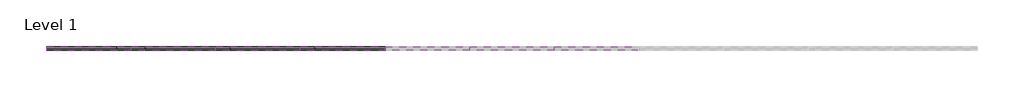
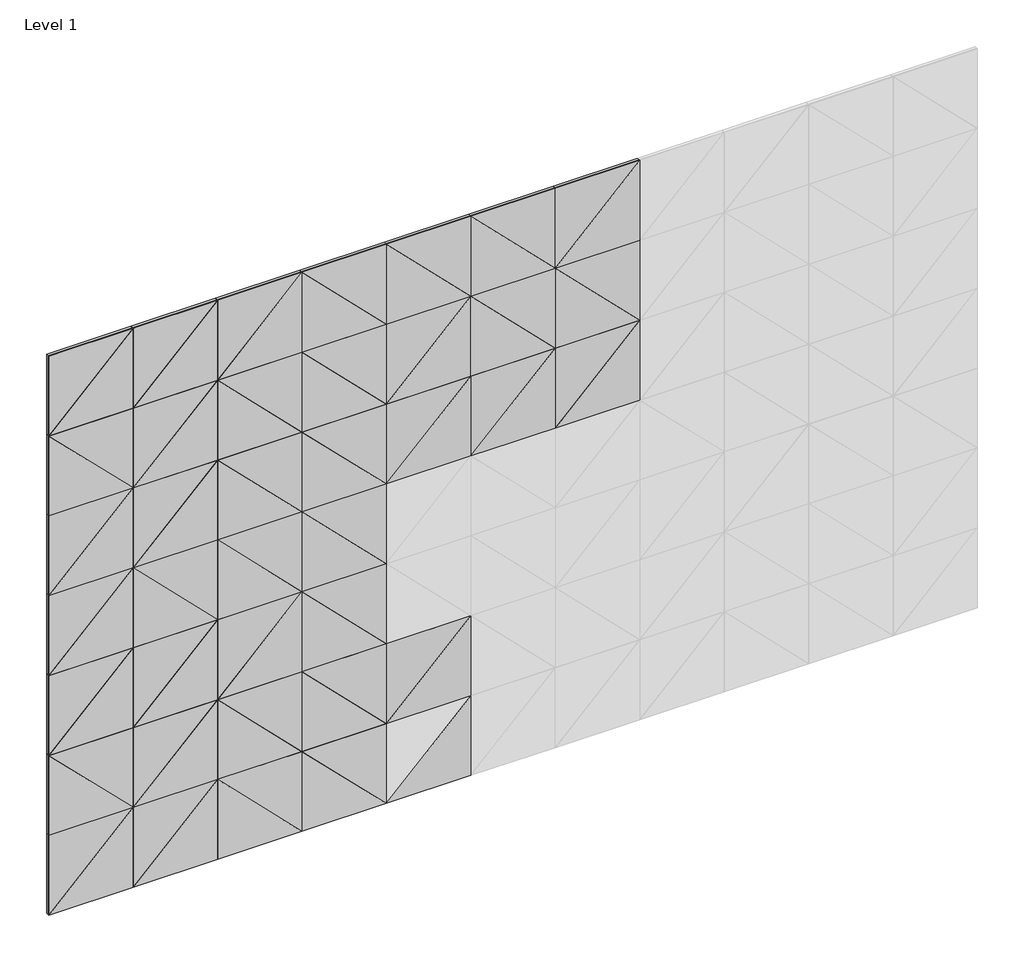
# One storey, part 1 of 2: 77 proxies.
"""IFC4 building model written with IfcOpenShell, lengths in millimetres."""

from ifc_helpers import new_model, si_unit, origin, place, context, project, spatial, transform, mapped, element, save
from components import triangle_90_block_a3482206

model = new_model("IFC4")

# Units and contexts
model_context = context("Model", 3, world=origin())
ifc_project = project(units=[si_unit("LENGTHUNIT", "METRE", prefix="MILLI")], contexts=[model_context])

# Site, building, storey
site = spatial("IfcSite", under=ifc_project)
building = spatial("IfcBuilding", under=site)
storey = spatial("IfcBuildingStorey", under=building, Name="Level 1", Elevation=0.0)

# Proxies
placement = place(None, origin())
triangle_90_block_shape = triangle_90_block_a3482206(model_context)
element("IfcBuildingElementProxy", 1, Name="FilzFelt_Triangle_90_Block : Triangle 90 Block", ObjectType="FilzFelt_Triangle_90_Block : Triangle 90 Block", at=placement, inside=storey, context=model_context, shape_type="MappedRepresentation", body=[
    mapped(triangle_90_block_shape, transform((38028.2097905, -10378.7647205, 1709.1), x_axis=(-1.0, 0.0, 0.0), y_axis=(0.0, 0.0, -1.0), z_axis=(0.0, -1.0, 0.0))),
])
element("IfcBuildingElementProxy", 2, Name="FilzFelt_Triangle_90_Block : Triangle 90 Block", ObjectType="FilzFelt_Triangle_90_Block : Triangle 90 Block", at=placement, inside=storey, context=model_context, shape_type="MappedRepresentation", body=[
    mapped(triangle_90_block_shape, transform((38638.2097905, -10378.7647205, 2014.1), x_axis=(0.0, 0.0, 1.0), y_axis=(-1.0, 0.0, 0.0), z_axis=(0.0, -1.0, 0.0))),
])
element("IfcBuildingElementProxy", 3, Name="FilzFelt_Triangle_90_Block : Triangle 90 Block", ObjectType="FilzFelt_Triangle_90_Block : Triangle 90 Block", at=placement, inside=storey, context=model_context, shape_type="MappedRepresentation", body=[
    mapped(triangle_90_block_shape, transform((38943.2097905, -10378.7647205, 2014.1), x_axis=(1.0, 0.0, 0.0), y_axis=(0.0, 0.0, 1.0), z_axis=(0.0, -1.0, 0.0))),
])
element("IfcBuildingElementProxy", 4, Name="FilzFelt_Triangle_90_Block : Triangle 90 Block", ObjectType="FilzFelt_Triangle_90_Block : Triangle 90 Block", at=placement, inside=storey, context=model_context, shape_type="MappedRepresentation", body=[
    mapped(triangle_90_block_shape, transform((39248.2097905, -10378.7647205, 2014.1), x_axis=(-1.0, 0.0, 0.0), y_axis=(0.0, 0.0, -1.0), z_axis=(0.0, -1.0, 0.0))),
])
element("IfcBuildingElementProxy", 5, Name="FilzFelt_Triangle_90_Block : Triangle 90 Block", ObjectType="FilzFelt_Triangle_90_Block : Triangle 90 Block", at=placement, inside=storey, context=model_context, shape_type="MappedRepresentation", body=[
    mapped(triangle_90_block_shape, transform((38028.2097905, -10378.7647205, 1099.1), x_axis=(0.0, 0.0, -1.0), y_axis=(1.0, 0.0, 0.0), z_axis=(0.0, -1.0, 0.0))),
])
element("IfcBuildingElementProxy", 6, Name="FilzFelt_Triangle_90_Block : Triangle 90 Block", ObjectType="FilzFelt_Triangle_90_Block : Triangle 90 Block", at=placement, inside=storey, context=model_context, shape_type="MappedRepresentation", body=[
    mapped(triangle_90_block_shape, transform((38333.2097905, -10378.7647205, 2014.1), x_axis=(0.0, 0.0, -1.0), y_axis=(1.0, 0.0, 0.0), z_axis=(0.0, -1.0, 0.0))),
])
element("IfcBuildingElementProxy", 7, Name="FilzFelt_Triangle_90_Block : Triangle 90 Block", ObjectType="FilzFelt_Triangle_90_Block : Triangle 90 Block", at=placement, inside=storey, context=model_context, shape_type="MappedRepresentation", body=[
    mapped(triangle_90_block_shape, transform((38028.2097905, -10378.7647205, 2014.1), x_axis=(0.0, 0.0, -1.0), y_axis=(1.0, 0.0, 0.0), z_axis=(0.0, -1.0, 0.0))),
])
element("IfcBuildingElementProxy", 8, Name="FilzFelt_Triangle_90_Block : Triangle 90 Block", ObjectType="FilzFelt_Triangle_90_Block : Triangle 90 Block", at=placement, inside=storey, context=model_context, shape_type="MappedRepresentation", body=[
    mapped(triangle_90_block_shape, transform((39858.2097905, -10378.7647205, 2014.1), x_axis=(0.0, 0.0, -1.0), y_axis=(1.0, 0.0, 0.0), z_axis=(0.0, -1.0, 0.0))),
])
element("IfcBuildingElementProxy", 9, Name="FilzFelt_Triangle_90_Block : Triangle 90 Block", ObjectType="FilzFelt_Triangle_90_Block : Triangle 90 Block", at=placement, inside=storey, context=model_context, shape_type="MappedRepresentation", body=[
    mapped(triangle_90_block_shape, transform((39553.2097905, -10378.7647205, 2014.1), x_axis=(-1.0, 0.0, 0.0), y_axis=(0.0, 0.0, -1.0), z_axis=(0.0, -1.0, 0.0))),
])
element("IfcBuildingElementProxy", 10, Name="FilzFelt_Triangle_90_Block : Triangle 90 Block", ObjectType="FilzFelt_Triangle_90_Block : Triangle 90 Block", at=placement, inside=storey, context=model_context, shape_type="MappedRepresentation", body=[
    mapped(triangle_90_block_shape, transform((38028.2097905, -10378.7647205, 1404.1), x_axis=(0.0, 0.0, -1.0), y_axis=(1.0, 0.0, 0.0), z_axis=(0.0, -1.0, 0.0))),
])
element("IfcBuildingElementProxy", 11, Name="FilzFelt_Triangle_90_Block : Triangle 90 Block", ObjectType="FilzFelt_Triangle_90_Block : Triangle 90 Block", at=placement, inside=storey, context=model_context, shape_type="MappedRepresentation", body=[
    mapped(triangle_90_block_shape, transform((38028.2097905, -10378.7647205, 794.1), x_axis=(0.0, 0.0, -1.0), y_axis=(1.0, 0.0, 0.0), z_axis=(0.0, -1.0, 0.0))),
])
element("IfcBuildingElementProxy", 12, Name="FilzFelt_Triangle_90_Block : Triangle 90 Block", ObjectType="FilzFelt_Triangle_90_Block : Triangle 90 Block", at=placement, inside=storey, context=model_context, shape_type="MappedRepresentation", body=[
    mapped(triangle_90_block_shape, transform((38028.2097905, -10378.7647205, 489.1), x_axis=(-1.0, 0.0, 0.0), y_axis=(0.0, 0.0, -1.0), z_axis=(0.0, -1.0, 0.0))),
])
element("IfcBuildingElementProxy", 13, Name="FilzFelt_Triangle_90_Block : Triangle 90 Block", ObjectType="FilzFelt_Triangle_90_Block : Triangle 90 Block", at=placement, inside=storey, context=model_context, shape_type="MappedRepresentation", body=[
    mapped(triangle_90_block_shape, transform((38028.2097905, -10378.7647205, 184.1), x_axis=(0.0, 0.0, -1.0), y_axis=(1.0, 0.0, 0.0), z_axis=(0.0, -1.0, 0.0))),
])
element("IfcBuildingElementProxy", 14, Name="FilzFelt_Triangle_90_Block : Triangle 90 Block", ObjectType="FilzFelt_Triangle_90_Block : Triangle 90 Block", at=placement, inside=storey, context=model_context, shape_type="MappedRepresentation", body=[
    mapped(triangle_90_block_shape, transform((38638.2097905, -10378.7647205, 1709.1), x_axis=(-1.0, 0.0, 0.0), y_axis=(0.0, 0.0, -1.0), z_axis=(0.0, -1.0, 0.0))),
])
element("IfcBuildingElementProxy", 15, Name="FilzFelt_Triangle_90_Block : Triangle 90 Block", ObjectType="FilzFelt_Triangle_90_Block : Triangle 90 Block", at=placement, inside=storey, context=model_context, shape_type="MappedRepresentation", body=[
    mapped(triangle_90_block_shape, transform((38333.2097905, -10378.7647205, 1709.1), x_axis=(0.0, 0.0, -1.0), y_axis=(1.0, 0.0, 0.0), z_axis=(0.0, -1.0, 0.0))),
])
element("IfcBuildingElementProxy", 16, Name="FilzFelt_Triangle_90_Block : Triangle 90 Block", ObjectType="FilzFelt_Triangle_90_Block : Triangle 90 Block", at=placement, inside=storey, context=model_context, shape_type="MappedRepresentation", body=[
    mapped(triangle_90_block_shape, transform((38943.2097905, -10378.7647205, 1709.1), x_axis=(1.0, 0.0, 0.0), y_axis=(0.0, 0.0, 1.0), z_axis=(0.0, -1.0, 0.0))),
])
element("IfcBuildingElementProxy", 17, Name="FilzFelt_Triangle_90_Block : Triangle 90 Block", ObjectType="FilzFelt_Triangle_90_Block : Triangle 90 Block", at=placement, inside=storey, context=model_context, shape_type="MappedRepresentation", body=[
    mapped(triangle_90_block_shape, transform((39553.2097905, -10378.7647205, 1709.1), x_axis=(-1.0, 0.0, 0.0), y_axis=(0.0, 0.0, -1.0), z_axis=(0.0, -1.0, 0.0))),
])
element("IfcBuildingElementProxy", 18, Name="FilzFelt_Triangle_90_Block : Triangle 90 Block", ObjectType="FilzFelt_Triangle_90_Block : Triangle 90 Block", at=placement, inside=storey, context=model_context, shape_type="MappedRepresentation", body=[
    mapped(triangle_90_block_shape, transform((39248.2097905, -10378.7647205, 1709.1), x_axis=(0.0, 0.0, -1.0), y_axis=(1.0, 0.0, 0.0), z_axis=(0.0, -1.0, 0.0))),
])
element("IfcBuildingElementProxy", 19, Name="FilzFelt_Triangle_90_Block : Triangle 90 Block", ObjectType="FilzFelt_Triangle_90_Block : Triangle 90 Block", at=placement, inside=storey, context=model_context, shape_type="MappedRepresentation", body=[
    mapped(triangle_90_block_shape, transform((39858.2097905, -10378.7647205, 1709.1), x_axis=(-1.0, 0.0, 0.0), y_axis=(0.0, 0.0, -1.0), z_axis=(0.0, -1.0, 0.0))),
])
element("IfcBuildingElementProxy", 20, Name="FilzFelt_Triangle_90_Block : Triangle 90 Block", ObjectType="FilzFelt_Triangle_90_Block : Triangle 90 Block", at=placement, inside=storey, context=model_context, shape_type="MappedRepresentation", body=[
    mapped(triangle_90_block_shape, transform((38333.2097905, -10378.7647205, 1404.1), x_axis=(0.0, 0.0, 1.0), y_axis=(-1.0, 0.0, 0.0), z_axis=(0.0, -1.0, 0.0))),
])
element("IfcBuildingElementProxy", 21, Name="FilzFelt_Triangle_90_Block : Triangle 90 Block", ObjectType="FilzFelt_Triangle_90_Block : Triangle 90 Block", at=placement, inside=storey, context=model_context, shape_type="MappedRepresentation", body=[
    mapped(triangle_90_block_shape, transform((38638.2097905, -10378.7647205, 1404.1), x_axis=(-1.0, 0.0, 0.0), y_axis=(0.0, 0.0, -1.0), z_axis=(0.0, -1.0, 0.0))),
])
element("IfcBuildingElementProxy", 22, Name="FilzFelt_Triangle_90_Block : Triangle 90 Block", ObjectType="FilzFelt_Triangle_90_Block : Triangle 90 Block", at=placement, inside=storey, context=model_context, shape_type="MappedRepresentation", body=[
    mapped(triangle_90_block_shape, transform((38943.2097905, -10378.7647205, 1404.1), x_axis=(-1.0, 0.0, 0.0), y_axis=(0.0, 0.0, -1.0), z_axis=(0.0, -1.0, 0.0))),
])
element("IfcBuildingElementProxy", 23, Name="FilzFelt_Triangle_90_Block : Triangle 90 Block", ObjectType="FilzFelt_Triangle_90_Block : Triangle 90 Block", at=placement, inside=storey, context=model_context, shape_type="MappedRepresentation", body=[
    mapped(triangle_90_block_shape, transform((39248.2097905, -10378.7647205, 1404.1), x_axis=(0.0, 0.0, 1.0), y_axis=(-1.0, 0.0, 0.0), z_axis=(0.0, -1.0, 0.0))),
])
element("IfcBuildingElementProxy", 24, Name="FilzFelt_Triangle_90_Block : Triangle 90 Block", ObjectType="FilzFelt_Triangle_90_Block : Triangle 90 Block", at=placement, inside=storey, context=model_context, shape_type="MappedRepresentation", body=[
    mapped(triangle_90_block_shape, transform((39553.2097905, -10378.7647205, 1404.1), x_axis=(0.0, 0.0, 1.0), y_axis=(-1.0, 0.0, 0.0), z_axis=(0.0, -1.0, 0.0))),
])
element("IfcBuildingElementProxy", 25, Name="FilzFelt_Triangle_90_Block : Triangle 90 Block", ObjectType="FilzFelt_Triangle_90_Block : Triangle 90 Block", at=placement, inside=storey, context=model_context, shape_type="MappedRepresentation", body=[
    mapped(triangle_90_block_shape, transform((39858.2097905, -10378.7647205, 1404.1), x_axis=(0.0, 0.0, -1.0), y_axis=(1.0, 0.0, 0.0), z_axis=(0.0, -1.0, 0.0))),
])
element("IfcBuildingElementProxy", 26, Name="FilzFelt_Triangle_90_Block : Triangle 90 Block", ObjectType="FilzFelt_Triangle_90_Block : Triangle 90 Block", at=placement, inside=storey, context=model_context, shape_type="MappedRepresentation", body=[
    mapped(triangle_90_block_shape, transform((38333.2097905, -10378.7647205, 1099.1), x_axis=(1.0, 0.0, 0.0), y_axis=(0.0, 0.0, 1.0), z_axis=(0.0, -1.0, 0.0))),
])
element("IfcBuildingElementProxy", 27, Name="FilzFelt_Triangle_90_Block : Triangle 90 Block", ObjectType="FilzFelt_Triangle_90_Block : Triangle 90 Block", at=placement, inside=storey, context=model_context, shape_type="MappedRepresentation", body=[
    mapped(triangle_90_block_shape, transform((38333.2097905, -10378.7647205, 794.1), x_axis=(0.0, 0.0, -1.0), y_axis=(1.0, 0.0, 0.0), z_axis=(0.0, -1.0, 0.0))),
])
element("IfcBuildingElementProxy", 28, Name="FilzFelt_Triangle_90_Block : Triangle 90 Block", ObjectType="FilzFelt_Triangle_90_Block : Triangle 90 Block", at=placement, inside=storey, context=model_context, shape_type="MappedRepresentation", body=[
    mapped(triangle_90_block_shape, transform((38333.2097905, -10378.7647205, 489.1), x_axis=(0.0, 0.0, -1.0), y_axis=(1.0, 0.0, 0.0), z_axis=(0.0, -1.0, 0.0))),
])
element("IfcBuildingElementProxy", 29, Name="FilzFelt_Triangle_90_Block : Triangle 90 Block", ObjectType="FilzFelt_Triangle_90_Block : Triangle 90 Block", at=placement, inside=storey, context=model_context, shape_type="MappedRepresentation", body=[
    mapped(triangle_90_block_shape, transform((38333.2097905, -10378.7647205, 184.1), x_axis=(0.0, 0.0, 1.0), y_axis=(-1.0, 0.0, 0.0), z_axis=(0.0, -1.0, 0.0))),
])
element("IfcBuildingElementProxy", 30, Name="FilzFelt_Triangle_90_Block : Triangle 90 Block", ObjectType="FilzFelt_Triangle_90_Block : Triangle 90 Block", at=placement, inside=storey, context=model_context, shape_type="MappedRepresentation", body=[
    mapped(triangle_90_block_shape, transform((38638.2097905, -10378.7647205, 1099.1), x_axis=(-1.0, 0.0, 0.0), y_axis=(0.0, 0.0, -1.0), z_axis=(0.0, -1.0, 0.0))),
])
element("IfcBuildingElementProxy", 31, Name="FilzFelt_Triangle_90_Block : Triangle 90 Block", ObjectType="FilzFelt_Triangle_90_Block : Triangle 90 Block", at=placement, inside=storey, context=model_context, shape_type="MappedRepresentation", body=[
    mapped(triangle_90_block_shape, transform((38638.2097905, -10378.7647205, 794.1), x_axis=(0.0, 0.0, 1.0), y_axis=(-1.0, 0.0, 0.0), z_axis=(0.0, -1.0, 0.0))),
])
element("IfcBuildingElementProxy", 32, Name="FilzFelt_Triangle_90_Block : Triangle 90 Block", ObjectType="FilzFelt_Triangle_90_Block : Triangle 90 Block", at=placement, inside=storey, context=model_context, shape_type="MappedRepresentation", body=[
    mapped(triangle_90_block_shape, transform((38638.2097905, -10378.7647205, 184.1), x_axis=(-1.0, 0.0, 0.0), y_axis=(0.0, 0.0, -1.0), z_axis=(0.0, -1.0, 0.0))),
])
element("IfcBuildingElementProxy", 33, Name="FilzFelt_Triangle_90_Block : Triangle 90 Block", ObjectType="FilzFelt_Triangle_90_Block : Triangle 90 Block", at=placement, inside=storey, context=model_context, shape_type="MappedRepresentation", body=[
    mapped(triangle_90_block_shape, transform((38638.2097905, -10378.7647205, 489.1), x_axis=(-1.0, 0.0, 0.0), y_axis=(0.0, 0.0, -1.0), z_axis=(0.0, -1.0, 0.0))),
])
element("IfcBuildingElementProxy", 34, Name="FilzFelt_Triangle_90_Block : Triangle 90 Block", ObjectType="FilzFelt_Triangle_90_Block : Triangle 90 Block", at=placement, inside=storey, context=model_context, shape_type="MappedRepresentation", body=[
    mapped(triangle_90_block_shape, transform((38943.2097905, -10378.7647205, 184.1), x_axis=(-1.0, 0.0, 0.0), y_axis=(0.0, 0.0, -1.0), z_axis=(0.0, -1.0, 0.0))),
])
element("IfcBuildingElementProxy", 35, Name="FilzFelt_Triangle_90_Block : Triangle 90 Block", ObjectType="FilzFelt_Triangle_90_Block : Triangle 90 Block", at=placement, inside=storey, context=model_context, shape_type="MappedRepresentation", body=[
    mapped(triangle_90_block_shape, transform((38943.2097905, -10378.7647205, 489.1), x_axis=(1.0, 0.0, 0.0), y_axis=(0.0, 0.0, 1.0), z_axis=(0.0, -1.0, 0.0))),
])
element("IfcBuildingElementProxy", 36, Name="FilzFelt_Triangle_90_Block : Triangle 90 Block", ObjectType="FilzFelt_Triangle_90_Block : Triangle 90 Block", at=placement, inside=storey, context=model_context, shape_type="MappedRepresentation", body=[
    mapped(triangle_90_block_shape, transform((38943.2097905, -10378.7647205, 794.1), x_axis=(1.0, 0.0, 0.0), y_axis=(0.0, 0.0, 1.0), z_axis=(0.0, -1.0, 0.0))),
])
element("IfcBuildingElementProxy", 37, Name="FilzFelt_Triangle_90_Block : Triangle 90 Block", ObjectType="FilzFelt_Triangle_90_Block : Triangle 90 Block", at=placement, inside=storey, context=model_context, shape_type="MappedRepresentation", body=[
    mapped(triangle_90_block_shape, transform((38943.2097905, -10378.7647205, 1099.1), x_axis=(-1.0, 0.0, 0.0), y_axis=(0.0, 0.0, -1.0), z_axis=(0.0, -1.0, 0.0))),
])
element("IfcBuildingElementProxy", 38, Name="FilzFelt_Triangle_90_Block : Triangle 90 Block", ObjectType="FilzFelt_Triangle_90_Block : Triangle 90 Block", at=placement, inside=storey, context=model_context, shape_type="MappedRepresentation", body=[
    mapped(triangle_90_block_shape, transform((39248.2097905, -10378.7647205, 489.1), x_axis=(0.0, 0.0, -1.0), y_axis=(1.0, 0.0, 0.0), z_axis=(0.0, -1.0, 0.0))),
])
element("IfcBuildingElementProxy", 39, Name="FilzFelt_Triangle_90_Block : Triangle 90 Block", ObjectType="FilzFelt_Triangle_90_Block : Triangle 90 Block", at=placement, inside=storey, context=model_context, shape_type="MappedRepresentation", body=[
    mapped(triangle_90_block_shape, transform((39248.2097905, -10378.7647205, 184.1), x_axis=(0.0, 0.0, 1.0), y_axis=(-1.0, 0.0, 0.0), z_axis=(0.0, -1.0, 0.0))),
])
element("IfcBuildingElementProxy", 40, Name="FilzFelt_Triangle_90_Block : Triangle 90 Block", ObjectType="FilzFelt_Triangle_90_Block : Triangle 90 Block", at=placement, inside=storey, context=model_context, shape_type="MappedRepresentation", body=[
    mapped(triangle_90_block_shape, transform((38028.2097905, -10378.7647205, 1709.1), x_axis=(1.0, 0.0, 0.0), y_axis=(0.0, 0.0, 1.0), z_axis=(0.0, -1.0, 0.0))),
])
element("IfcBuildingElementProxy", 41, Name="FilzFelt_Triangle_90_Block : Triangle 90 Block", ObjectType="FilzFelt_Triangle_90_Block : Triangle 90 Block", at=placement, inside=storey, context=model_context, shape_type="MappedRepresentation", body=[
    mapped(triangle_90_block_shape, transform((38028.2097905, -10378.7647205, 1099.1), x_axis=(0.0, 0.0, 1.0), y_axis=(-1.0, 0.0, 0.0), z_axis=(0.0, -1.0, 0.0))),
])
element("IfcBuildingElementProxy", 42, Name="FilzFelt_Triangle_90_Block : Triangle 90 Block", ObjectType="FilzFelt_Triangle_90_Block : Triangle 90 Block", at=placement, inside=storey, context=model_context, shape_type="MappedRepresentation", body=[
    mapped(triangle_90_block_shape, transform((38943.2097905, -10378.7647205, 2014.1), x_axis=(-1.0, 0.0, 0.0), y_axis=(0.0, 0.0, -1.0), z_axis=(0.0, -1.0, 0.0))),
])
element("IfcBuildingElementProxy", 43, Name="FilzFelt_Triangle_90_Block : Triangle 90 Block", ObjectType="FilzFelt_Triangle_90_Block : Triangle 90 Block", at=placement, inside=storey, context=model_context, shape_type="MappedRepresentation", body=[
    mapped(triangle_90_block_shape, transform((39248.2097905, -10378.7647205, 2014.1), x_axis=(1.0, 0.0, 0.0), y_axis=(0.0, 0.0, 1.0), z_axis=(0.0, -1.0, 0.0))),
])
element("IfcBuildingElementProxy", 44, Name="FilzFelt_Triangle_90_Block : Triangle 90 Block", ObjectType="FilzFelt_Triangle_90_Block : Triangle 90 Block", at=placement, inside=storey, context=model_context, shape_type="MappedRepresentation", body=[
    mapped(triangle_90_block_shape, transform((38638.2097905, -10378.7647205, 2014.1), x_axis=(0.0, 0.0, -1.0), y_axis=(1.0, 0.0, 0.0), z_axis=(0.0, -1.0, 0.0))),
])
element("IfcBuildingElementProxy", 45, Name="FilzFelt_Triangle_90_Block : Triangle 90 Block", ObjectType="FilzFelt_Triangle_90_Block : Triangle 90 Block", at=placement, inside=storey, context=model_context, shape_type="MappedRepresentation", body=[
    mapped(triangle_90_block_shape, transform((38333.2097905, -10378.7647205, 2014.1), x_axis=(0.0, 0.0, 1.0), y_axis=(-1.0, 0.0, 0.0), z_axis=(0.0, -1.0, 0.0))),
])
element("IfcBuildingElementProxy", 46, Name="FilzFelt_Triangle_90_Block : Triangle 90 Block", ObjectType="FilzFelt_Triangle_90_Block : Triangle 90 Block", at=placement, inside=storey, context=model_context, shape_type="MappedRepresentation", body=[
    mapped(triangle_90_block_shape, transform((38028.2097905, -10378.7647205, 2014.1), x_axis=(0.0, 0.0, 1.0), y_axis=(-1.0, 0.0, 0.0), z_axis=(0.0, -1.0, 0.0))),
])
element("IfcBuildingElementProxy", 47, Name="FilzFelt_Triangle_90_Block : Triangle 90 Block", ObjectType="FilzFelt_Triangle_90_Block : Triangle 90 Block", at=placement, inside=storey, context=model_context, shape_type="MappedRepresentation", body=[
    mapped(triangle_90_block_shape, transform((39858.2097905, -10378.7647205, 2014.1), x_axis=(0.0, 0.0, 1.0), y_axis=(-1.0, 0.0, 0.0), z_axis=(0.0, -1.0, 0.0))),
])
element("IfcBuildingElementProxy", 48, Name="FilzFelt_Triangle_90_Block : Triangle 90 Block", ObjectType="FilzFelt_Triangle_90_Block : Triangle 90 Block", at=placement, inside=storey, context=model_context, shape_type="MappedRepresentation", body=[
    mapped(triangle_90_block_shape, transform((39553.2097905, -10378.7647205, 2014.1), x_axis=(1.0, 0.0, 0.0), y_axis=(0.0, 0.0, 1.0), z_axis=(0.0, -1.0, 0.0))),
])
element("IfcBuildingElementProxy", 49, Name="FilzFelt_Triangle_90_Block : Triangle 90 Block", ObjectType="FilzFelt_Triangle_90_Block : Triangle 90 Block", at=placement, inside=storey, context=model_context, shape_type="MappedRepresentation", body=[
    mapped(triangle_90_block_shape, transform((38028.2097905, -10378.7647205, 1404.1), x_axis=(0.0, 0.0, 1.0), y_axis=(-1.0, 0.0, 0.0), z_axis=(0.0, -1.0, 0.0))),
])
element("IfcBuildingElementProxy", 50, Name="FilzFelt_Triangle_90_Block : Triangle 90 Block", ObjectType="FilzFelt_Triangle_90_Block : Triangle 90 Block", at=placement, inside=storey, context=model_context, shape_type="MappedRepresentation", body=[
    mapped(triangle_90_block_shape, transform((38028.2097905, -10378.7647205, 794.1), x_axis=(0.0, 0.0, 1.0), y_axis=(-1.0, 0.0, 0.0), z_axis=(0.0, -1.0, 0.0))),
])
element("IfcBuildingElementProxy", 51, Name="FilzFelt_Triangle_90_Block : Triangle 90 Block", ObjectType="FilzFelt_Triangle_90_Block : Triangle 90 Block", at=placement, inside=storey, context=model_context, shape_type="MappedRepresentation", body=[
    mapped(triangle_90_block_shape, transform((38028.2097905, -10378.7647205, 489.1), x_axis=(1.0, 0.0, 0.0), y_axis=(0.0, 0.0, 1.0), z_axis=(0.0, -1.0, 0.0))),
])
element("IfcBuildingElementProxy", 52, Name="FilzFelt_Triangle_90_Block : Triangle 90 Block", ObjectType="FilzFelt_Triangle_90_Block : Triangle 90 Block", at=placement, inside=storey, context=model_context, shape_type="MappedRepresentation", body=[
    mapped(triangle_90_block_shape, transform((38028.2097905, -10378.7647205, 184.1), x_axis=(0.0, 0.0, 1.0), y_axis=(-1.0, 0.0, 0.0), z_axis=(0.0, -1.0, 0.0))),
])
element("IfcBuildingElementProxy", 53, Name="FilzFelt_Triangle_90_Block : Triangle 90 Block", ObjectType="FilzFelt_Triangle_90_Block : Triangle 90 Block", at=placement, inside=storey, context=model_context, shape_type="MappedRepresentation", body=[
    mapped(triangle_90_block_shape, transform((38638.2097905, -10378.7647205, 1709.1), x_axis=(1.0, 0.0, 0.0), y_axis=(0.0, 0.0, 1.0), z_axis=(0.0, -1.0, 0.0))),
])
element("IfcBuildingElementProxy", 54, Name="FilzFelt_Triangle_90_Block : Triangle 90 Block", ObjectType="FilzFelt_Triangle_90_Block : Triangle 90 Block", at=placement, inside=storey, context=model_context, shape_type="MappedRepresentation", body=[
    mapped(triangle_90_block_shape, transform((38333.2097905, -10378.7647205, 1709.1), x_axis=(0.0, 0.0, 1.0), y_axis=(-1.0, 0.0, 0.0), z_axis=(0.0, -1.0, 0.0))),
])
element("IfcBuildingElementProxy", 55, Name="FilzFelt_Triangle_90_Block : Triangle 90 Block", ObjectType="FilzFelt_Triangle_90_Block : Triangle 90 Block", at=placement, inside=storey, context=model_context, shape_type="MappedRepresentation", body=[
    mapped(triangle_90_block_shape, transform((38943.2097905, -10378.7647205, 1709.1), x_axis=(-1.0, 0.0, 0.0), y_axis=(0.0, 0.0, -1.0), z_axis=(0.0, -1.0, 0.0))),
])
element("IfcBuildingElementProxy", 56, Name="FilzFelt_Triangle_90_Block : Triangle 90 Block", ObjectType="FilzFelt_Triangle_90_Block : Triangle 90 Block", at=placement, inside=storey, context=model_context, shape_type="MappedRepresentation", body=[
    mapped(triangle_90_block_shape, transform((39553.2097905, -10378.7647205, 1709.1), x_axis=(1.0, 0.0, 0.0), y_axis=(0.0, 0.0, 1.0), z_axis=(0.0, -1.0, 0.0))),
])
element("IfcBuildingElementProxy", 57, Name="FilzFelt_Triangle_90_Block : Triangle 90 Block", ObjectType="FilzFelt_Triangle_90_Block : Triangle 90 Block", at=placement, inside=storey, context=model_context, shape_type="MappedRepresentation", body=[
    mapped(triangle_90_block_shape, transform((39248.2097905, -10378.7647205, 1709.1), x_axis=(0.0, 0.0, 1.0), y_axis=(-1.0, 0.0, 0.0), z_axis=(0.0, -1.0, 0.0))),
])
element("IfcBuildingElementProxy", 58, Name="FilzFelt_Triangle_90_Block : Triangle 90 Block", ObjectType="FilzFelt_Triangle_90_Block : Triangle 90 Block", at=placement, inside=storey, context=model_context, shape_type="MappedRepresentation", body=[
    mapped(triangle_90_block_shape, transform((39858.2097905, -10378.7647205, 1709.1), x_axis=(1.0, 0.0, 0.0), y_axis=(0.0, 0.0, 1.0), z_axis=(0.0, -1.0, 0.0))),
])
element("IfcBuildingElementProxy", 59, Name="FilzFelt_Triangle_90_Block : Triangle 90 Block", ObjectType="FilzFelt_Triangle_90_Block : Triangle 90 Block", at=placement, inside=storey, context=model_context, shape_type="MappedRepresentation", body=[
    mapped(triangle_90_block_shape, transform((38333.2097905, -10378.7647205, 1404.1), x_axis=(0.0, 0.0, -1.0), y_axis=(1.0, 0.0, 0.0), z_axis=(0.0, -1.0, 0.0))),
])
element("IfcBuildingElementProxy", 60, Name="FilzFelt_Triangle_90_Block : Triangle 90 Block", ObjectType="FilzFelt_Triangle_90_Block : Triangle 90 Block", at=placement, inside=storey, context=model_context, shape_type="MappedRepresentation", body=[
    mapped(triangle_90_block_shape, transform((38638.2097905, -10378.7647205, 1404.1), x_axis=(1.0, 0.0, 0.0), y_axis=(0.0, 0.0, 1.0), z_axis=(0.0, -1.0, 0.0))),
])
element("IfcBuildingElementProxy", 61, Name="FilzFelt_Triangle_90_Block : Triangle 90 Block", ObjectType="FilzFelt_Triangle_90_Block : Triangle 90 Block", at=placement, inside=storey, context=model_context, shape_type="MappedRepresentation", body=[
    mapped(triangle_90_block_shape, transform((38943.2097905, -10378.7647205, 1404.1), x_axis=(1.0, 0.0, 0.0), y_axis=(0.0, 0.0, 1.0), z_axis=(0.0, -1.0, 0.0))),
])
element("IfcBuildingElementProxy", 62, Name="FilzFelt_Triangle_90_Block : Triangle 90 Block", ObjectType="FilzFelt_Triangle_90_Block : Triangle 90 Block", at=placement, inside=storey, context=model_context, shape_type="MappedRepresentation", body=[
    mapped(triangle_90_block_shape, transform((39248.2097905, -10378.7647205, 1404.1), x_axis=(0.0, 0.0, -1.0), y_axis=(1.0, 0.0, 0.0), z_axis=(0.0, -1.0, 0.0))),
])
element("IfcBuildingElementProxy", 63, Name="FilzFelt_Triangle_90_Block : Triangle 90 Block", ObjectType="FilzFelt_Triangle_90_Block : Triangle 90 Block", at=placement, inside=storey, context=model_context, shape_type="MappedRepresentation", body=[
    mapped(triangle_90_block_shape, transform((39553.2097905, -10378.7647205, 1404.1), x_axis=(0.0, 0.0, -1.0), y_axis=(1.0, 0.0, 0.0), z_axis=(0.0, -1.0, 0.0))),
])
element("IfcBuildingElementProxy", 64, Name="FilzFelt_Triangle_90_Block : Triangle 90 Block", ObjectType="FilzFelt_Triangle_90_Block : Triangle 90 Block", at=placement, inside=storey, context=model_context, shape_type="MappedRepresentation", body=[
    mapped(triangle_90_block_shape, transform((39858.2097905, -10378.7647205, 1404.1), x_axis=(0.0, 0.0, 1.0), y_axis=(-1.0, 0.0, 0.0), z_axis=(0.0, -1.0, 0.0))),
])
element("IfcBuildingElementProxy", 65, Name="FilzFelt_Triangle_90_Block : Triangle 90 Block", ObjectType="FilzFelt_Triangle_90_Block : Triangle 90 Block", at=placement, inside=storey, context=model_context, shape_type="MappedRepresentation", body=[
    mapped(triangle_90_block_shape, transform((38333.2097905, -10378.7647205, 1099.1), x_axis=(-1.0, 0.0, 0.0), y_axis=(0.0, 0.0, -1.0), z_axis=(0.0, -1.0, 0.0))),
])
element("IfcBuildingElementProxy", 66, Name="FilzFelt_Triangle_90_Block : Triangle 90 Block", ObjectType="FilzFelt_Triangle_90_Block : Triangle 90 Block", at=placement, inside=storey, context=model_context, shape_type="MappedRepresentation", body=[
    mapped(triangle_90_block_shape, transform((38333.2097905, -10378.7647205, 794.1), x_axis=(0.0, 0.0, 1.0), y_axis=(-1.0, 0.0, 0.0), z_axis=(0.0, -1.0, 0.0))),
])
element("IfcBuildingElementProxy", 67, Name="FilzFelt_Triangle_90_Block : Triangle 90 Block", ObjectType="FilzFelt_Triangle_90_Block : Triangle 90 Block", at=placement, inside=storey, context=model_context, shape_type="MappedRepresentation", body=[
    mapped(triangle_90_block_shape, transform((38333.2097905, -10378.7647205, 489.1), x_axis=(0.0, 0.0, 1.0), y_axis=(-1.0, 0.0, 0.0), z_axis=(0.0, -1.0, 0.0))),
])
element("IfcBuildingElementProxy", 68, Name="FilzFelt_Triangle_90_Block : Triangle 90 Block", ObjectType="FilzFelt_Triangle_90_Block : Triangle 90 Block", at=placement, inside=storey, context=model_context, shape_type="MappedRepresentation", body=[
    mapped(triangle_90_block_shape, transform((38333.2097905, -10378.7647205, 184.1), x_axis=(0.0, 0.0, -1.0), y_axis=(1.0, 0.0, 0.0), z_axis=(0.0, -1.0, 0.0))),
])
element("IfcBuildingElementProxy", 69, Name="FilzFelt_Triangle_90_Block : Triangle 90 Block", ObjectType="FilzFelt_Triangle_90_Block : Triangle 90 Block", at=placement, inside=storey, context=model_context, shape_type="MappedRepresentation", body=[
    mapped(triangle_90_block_shape, transform((38638.2097905, -10378.7647205, 1099.1), x_axis=(1.0, 0.0, 0.0), y_axis=(0.0, 0.0, 1.0), z_axis=(0.0, -1.0, 0.0))),
])
element("IfcBuildingElementProxy", 70, Name="FilzFelt_Triangle_90_Block : Triangle 90 Block", ObjectType="FilzFelt_Triangle_90_Block : Triangle 90 Block", at=placement, inside=storey, context=model_context, shape_type="MappedRepresentation", body=[
    mapped(triangle_90_block_shape, transform((38638.2097905, -10378.7647205, 794.1), x_axis=(0.0, 0.0, -1.0), y_axis=(1.0, 0.0, 0.0), z_axis=(0.0, -1.0, 0.0))),
])
element("IfcBuildingElementProxy", 71, Name="FilzFelt_Triangle_90_Block : Triangle 90 Block", ObjectType="FilzFelt_Triangle_90_Block : Triangle 90 Block", at=placement, inside=storey, context=model_context, shape_type="MappedRepresentation", body=[
    mapped(triangle_90_block_shape, transform((38638.2097905, -10378.7647205, 184.1), x_axis=(1.0, 0.0, 0.0), y_axis=(0.0, 0.0, 1.0), z_axis=(0.0, -1.0, 0.0))),
])
element("IfcBuildingElementProxy", 72, Name="FilzFelt_Triangle_90_Block : Triangle 90 Block", ObjectType="FilzFelt_Triangle_90_Block : Triangle 90 Block", at=placement, inside=storey, context=model_context, shape_type="MappedRepresentation", body=[
    mapped(triangle_90_block_shape, transform((38638.2097905, -10378.7647205, 489.1), x_axis=(1.0, 0.0, 0.0), y_axis=(0.0, 0.0, 1.0), z_axis=(0.0, -1.0, 0.0))),
])
element("IfcBuildingElementProxy", 73, Name="FilzFelt_Triangle_90_Block : Triangle 90 Block", ObjectType="FilzFelt_Triangle_90_Block : Triangle 90 Block", at=placement, inside=storey, context=model_context, shape_type="MappedRepresentation", body=[
    mapped(triangle_90_block_shape, transform((38943.2097905, -10378.7647205, 184.1), x_axis=(1.0, 0.0, 0.0), y_axis=(0.0, 0.0, 1.0), z_axis=(0.0, -1.0, 0.0))),
])
element("IfcBuildingElementProxy", 74, Name="FilzFelt_Triangle_90_Block : Triangle 90 Block", ObjectType="FilzFelt_Triangle_90_Block : Triangle 90 Block", at=placement, inside=storey, context=model_context, shape_type="MappedRepresentation", body=[
    mapped(triangle_90_block_shape, transform((38943.2097905, -10378.7647205, 489.1), x_axis=(-1.0, 0.0, 0.0), y_axis=(0.0, 0.0, -1.0), z_axis=(0.0, -1.0, 0.0))),
])
element("IfcBuildingElementProxy", 75, Name="FilzFelt_Triangle_90_Block : Triangle 90 Block", ObjectType="FilzFelt_Triangle_90_Block : Triangle 90 Block", at=placement, inside=storey, context=model_context, shape_type="MappedRepresentation", body=[
    mapped(triangle_90_block_shape, transform((38943.2097905, -10378.7647205, 794.1), x_axis=(-1.0, 0.0, 0.0), y_axis=(0.0, 0.0, -1.0), z_axis=(0.0, -1.0, 0.0))),
])
element("IfcBuildingElementProxy", 76, Name="FilzFelt_Triangle_90_Block : Triangle 90 Block", ObjectType="FilzFelt_Triangle_90_Block : Triangle 90 Block", at=placement, inside=storey, context=model_context, shape_type="MappedRepresentation", body=[
    mapped(triangle_90_block_shape, transform((38943.2097905, -10378.7647205, 1099.1), x_axis=(1.0, 0.0, 0.0), y_axis=(0.0, 0.0, 1.0), z_axis=(0.0, -1.0, 0.0))),
])
element("IfcBuildingElementProxy", 77, Name="FilzFelt_Triangle_90_Block : Triangle 90 Block", ObjectType="FilzFelt_Triangle_90_Block : Triangle 90 Block", at=placement, inside=storey, context=model_context, shape_type="MappedRepresentation", body=[
    mapped(triangle_90_block_shape, transform((39248.2097905, -10378.7647205, 489.1), x_axis=(0.0, 0.0, 1.0), y_axis=(-1.0, 0.0, 0.0), z_axis=(0.0, -1.0, 0.0))),
])

save(model, "model.ifc")
